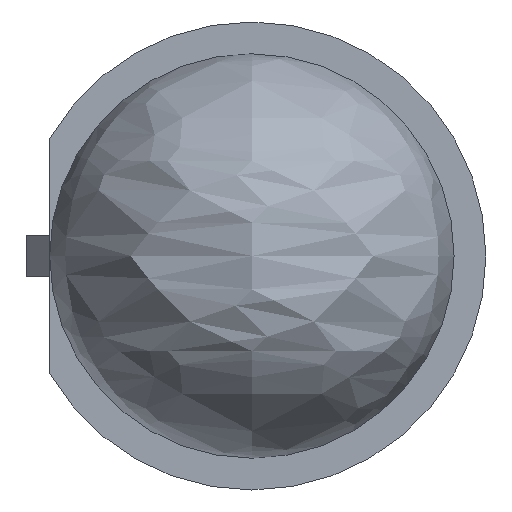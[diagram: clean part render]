
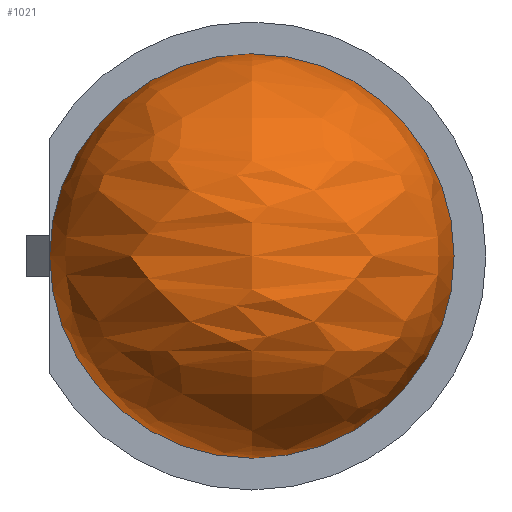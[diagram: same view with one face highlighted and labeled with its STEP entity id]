
A CAD part, left-side view. The second image highlights one B-rep face of the part: STEP entity #1021.
In plain terms, the highlighted free-form (B-spline) face has degree [3, 3] with [4, 4] control points.
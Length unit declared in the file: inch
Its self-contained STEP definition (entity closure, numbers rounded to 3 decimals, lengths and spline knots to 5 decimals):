
#32 = ORIENTED_EDGE ( 'NONE', *, *, #857, .T. ) ;
#58 = VERTEX_POINT ( 'NONE', #717 ) ;
#61 = CARTESIAN_POINT ( 'NONE',  ( 0.0985, 0., 0.0985 ) ) ;
#65 = ORIENTED_EDGE ( 'NONE', *, *, #941, .T. ) ;
#126 = CARTESIAN_POINT ( 'NONE',  ( 0.0985, 0., 0.0985 ) ) ;
#297 = DIRECTION ( 'NONE',  ( 0., 0., 1. ) ) ;
#337 = CARTESIAN_POINT ( 'NONE',  ( 0.0985, 0.197, -0.0985 ) ) ;
#407 = CARTESIAN_POINT ( 'NONE',  ( -0.2955, 0.197, 0.0985 ) ) ;
#413 = CARTESIAN_POINT ( 'NONE',  ( 0.0985, 0.197, 0.0985 ) ) ;
#422 = FACE_OUTER_BOUND ( 'NONE', #889, .T. ) ;
#474 = DIRECTION ( 'NONE',  ( 0., 0., 1. ) ) ;
#499 = CARTESIAN_POINT ( 'NONE',  ( -0.2955, -0.197, -0.0985 ) ) ;
#505 = CIRCLE ( 'NONE', #751, 0.0985 ) ;
#507 = CARTESIAN_POINT ( 'NONE',  ( 0.0985, 0., -0.0985 ) ) ;
#563 = DIRECTION ( 'NONE',  ( -1., 0., 0. ) ) ;
#581 = CARTESIAN_POINT ( 'NONE',  ( -0.2955, -0.197, 0.0985 ) ) ;
#623 = AXIS2_PLACEMENT_3D ( 'NONE', #1002, #563, #474 ) ;
#637 = CARTESIAN_POINT ( 'NONE',  ( 0.0985, 0., 0. ) ) ;
#666 = CARTESIAN_POINT ( 'NONE',  ( -0.2955, 0.197, -0.0985 ) ) ;
#677 = CARTESIAN_POINT ( 'NONE',  ( 0.0985, 0., 0.0985 ) ) ;
#717 = CARTESIAN_POINT ( 'NONE',  ( 0.0985, 0., -0.0985 ) ) ;
#751 = AXIS2_PLACEMENT_3D ( 'NONE', #637, #986, #297 ) ;
#754 = CARTESIAN_POINT ( 'NONE',  ( 0.0985, 0., 0.0985 ) ) ;
#766 = CARTESIAN_POINT ( 'NONE',  ( 0.0985, 0., 0.0985 ) ) ;
#834 = CARTESIAN_POINT ( 'NONE',  ( 0.0985, -0.197, -0.0985 ) ) ;
#857 = EDGE_CURVE ( 'NONE', #58, #915, #505, .T. ) ;
#889 = EDGE_LOOP ( 'NONE', ( #65, #32 ) ) ;
#915 = VERTEX_POINT ( 'NONE', #126 ) ;
#941 = EDGE_CURVE ( 'NONE', #915, #58, #970, .T. ) ;
#970 = CIRCLE ( 'NONE', #623, 0.0985 ) ;
#986 = DIRECTION ( 'NONE',  ( -1., 0., 0. ) ) ;
#1002 = CARTESIAN_POINT ( 'NONE',  ( 0.0985, 0., 0. ) ) ;
#1005 =( BOUNDED_SURFACE ( )  B_SPLINE_SURFACE ( 3, 3, ( 
 ( #1107, #1015, #507, #1034 ),
 ( #337, #666, #499, #834 ),
 ( #413, #407, #581, #1096 ),
 ( #677, #754, #766, #61 ) ),
 .UNSPECIFIED., .F., .F., .F. ) 
 B_SPLINE_SURFACE_WITH_KNOTS ( ( 4, 4 ),
 ( 4, 4 ),
 ( 0., 1. ),
 ( 0., 1. ),
 .UNSPECIFIED. ) 
 GEOMETRIC_REPRESENTATION_ITEM ( )  RATIONAL_B_SPLINE_SURFACE ( (
 ( 1., 0.333, 0.333, 1.),
 ( 0.333, 0.111, 0.111, 0.333),
 ( 0.333, 0.111, 0.111, 0.333),
 ( 1., 0.333, 0.333, 1.) ) ) 
 REPRESENTATION_ITEM ( '' )  SURFACE ( )  );
#1015 = CARTESIAN_POINT ( 'NONE',  ( 0.0985, 0., -0.0985 ) ) ;
#1021 = ADVANCED_FACE ( 'NONE', ( #422 ), #1005, .F. ) ;
#1034 = CARTESIAN_POINT ( 'NONE',  ( 0.0985, 0., -0.0985 ) ) ;
#1096 = CARTESIAN_POINT ( 'NONE',  ( 0.0985, -0.197, 0.0985 ) ) ;
#1107 = CARTESIAN_POINT ( 'NONE',  ( 0.0985, 0., -0.0985 ) ) ;
